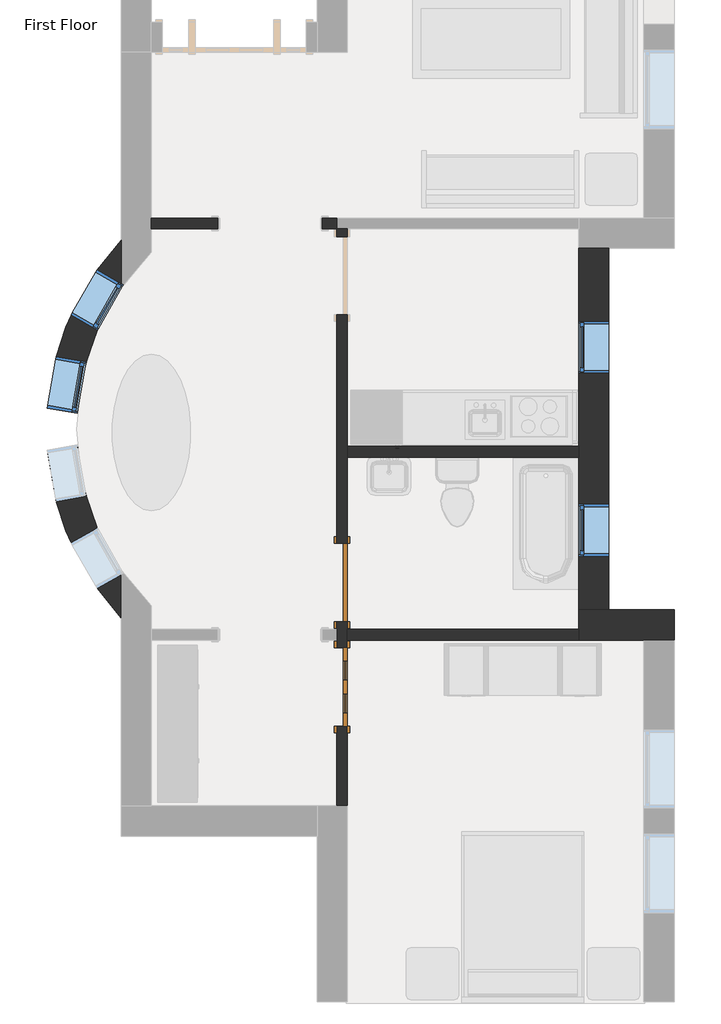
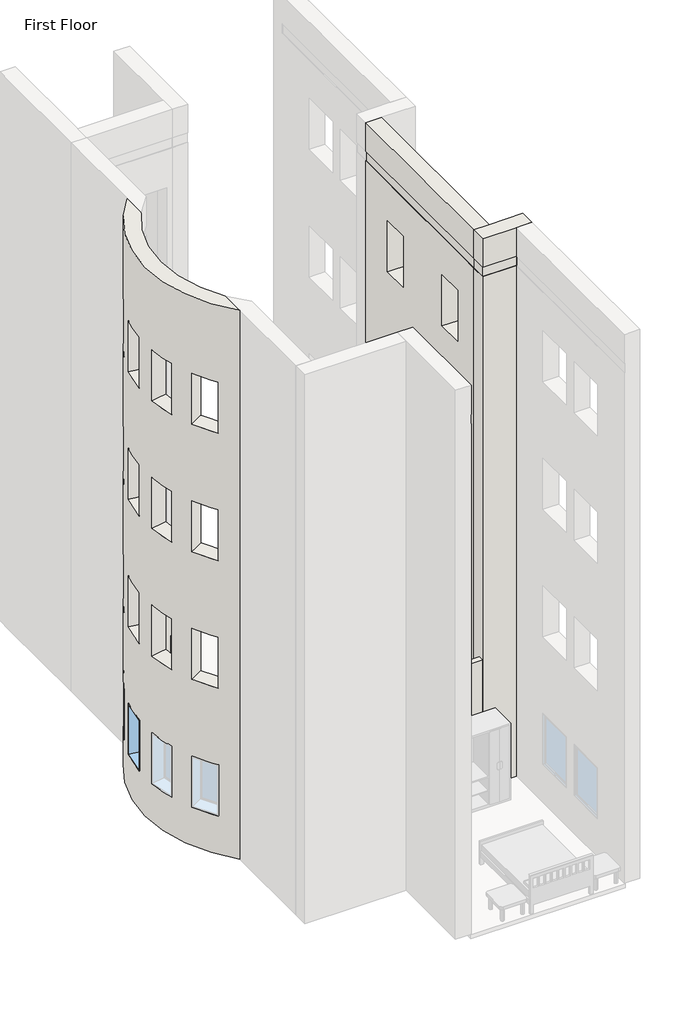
# One storey, part 12 of 24: 7 walls, 4 windows, 2 doors.
"""IFC4 building model written with IfcOpenShell, lengths in millimetres."""

from ifc_helpers import new_model, si_unit, frame, origin, origin_with_axes, place, context, project, spatial, polyline, circle_curve, outline, extrude, faceted_brep, transform, mapped, element, save
from ifc_brep_helpers import plane_surface, cylinder_surface, revolved_surface, advanced_brep
from components import door_829da954, door_a1797ceb, window_60baf983, window_ed80354a

model = new_model("IFC4")

# Units and contexts
model_context = context("Model", 3, world=origin())
ifc_project = project(units=[si_unit("LENGTHUNIT", "METRE", prefix="MILLI")], contexts=[model_context])

# Site, building, storey
site = spatial("IfcSite", under=ifc_project)
building = spatial("IfcBuilding", under=site)
storey = spatial("IfcBuildingStorey", under=building, Name="First Floor", Elevation=0.0)

# Doors
placement = place(None, origin())
door_shape = door_829da954(model_context)
element("IfcDoor", 1, ObjectType="Single-Decorative 2 : 36\" x 84\"", at=placement, inside=storey, context=model_context, shape_type="MappedRepresentation", body=[
    mapped(door_shape, transform((-3773.4589563, -7954.4808133, 0.0), x_axis=(0.0, 1.0, 0.0), y_axis=(-1.0, 0.0, 0.0), z_axis=(0.0, 0.0, 1.0))),
])
door_2_shape = door_a1797ceb(model_context)
element("IfcDoor", 2, ObjectType="Single-Flush : 36\" x 84\"", at=placement, inside=storey, context=model_context, shape_type="MappedRepresentation", body=[
    mapped(door_2_shape, transform((-3773.4589563, -6735.2808133, 0.0), x_axis=(0.0, -1.0, 0.0), y_axis=(1.0, 0.0, 0.0), z_axis=(0.0, 0.0, 1.0))),
])

# Walls
element("IfcWall", 3, ObjectType="Exterior - Brick on Mtl. Stud", at=placement, inside=storey, context=model_context, shape_type="Brep", body=[
    faceted_brep([(100.0410437, -7055.9558133, 0.0), (-661.9589563, -7055.9558133, 0.0), (-1014.3839563, -7055.9558133, 0.0), (-1014.3839563, -7055.9558133, 12192.0), (-1001.6839563, -7055.9558133, 12192.0), (-1001.6839563, -7055.9558133, 12420.6), (-1014.3839563, -7055.9558133, 12420.6), (-1014.3839563, -7055.9558133, 13106.4), (-661.9589563, -7055.9558133, 13106.4), (100.0410437, -7055.9558133, 13106.4), (-1014.3839563, -7408.3808133, 0.0), (-252.3839563, -7408.3808133, 0.0), (100.0410437, -7408.3808133, 0.0), (100.0410437, -7408.3808133, 13106.4), (-252.3839563, -7408.3808133, 13106.4), (-1014.3839563, -7408.3808133, 13106.4), (-1014.3839563, -7408.3808133, 12420.6), (-252.3839563, -7408.3808133, 12420.6), (-239.6839563, -7408.3808133, 12420.6), (-239.6839563, -7408.3808133, 12192.0), (-252.3839563, -7408.3808133, 12192.0), (-1014.3839563, -7408.3808133, 12192.0), (-1014.3839563, -7408.3808133, 3048.0), (-1014.3839563, -7281.3808133, 0.0), (-239.6839563, -7395.6808133, 12192.0), (-1001.6839563, -7395.6808133, 12192.0), (-1001.6839563, -7395.6808133, 12420.6), (-239.6839563, -7395.6808133, 12420.6)], [[[0, 1, 2, 3, 4, 5, 6, 7, 8, 9]], [[10, 11, 12, 13, 14, 15, 16, 17, 18, 19, 20, 21, 22]], [[2, 1, 0, 12, 11, 10, 23]], [[9, 8, 7, 15, 14, 13]], [[0, 9, 13, 12]], [[2, 23, 10, 22, 21, 3]], [[15, 7, 6, 16]], [[24, 25, 4, 3, 21, 20, 19]], [[26, 27, 18, 17, 16, 6, 5]], [[27, 24, 19, 18]], [[25, 24, 27, 26]], [[25, 26, 5, 4]]]),
])
element("IfcWall", 4, ObjectType="Exterior - Brick on Mtl. Stud", at=placement, inside=storey, context=model_context, shape_type="Brep", body=[
    faceted_brep([(-661.9589563, -7055.9558133, 0.0), (-661.9589563, -2836.3808133, 0.0), (-661.9589563, -2836.3808133, 13106.4), (-661.9589563, -7055.9558133, 13106.4), (-661.9589563, -6430.4808133, 7010.4), (-661.9589563, -6430.4808133, 8229.6), (-661.9589563, -5820.8808133, 8229.6), (-661.9589563, -5820.8808133, 7010.4), (-661.9589563, -4296.8808133, 7010.4), (-661.9589563, -4296.8808133, 8229.6), (-661.9589563, -3687.2808133, 8229.6), (-661.9589563, -3687.2808133, 7010.4), (-661.9589563, -6430.4808133, 3962.4), (-661.9589563, -6430.4808133, 5181.6), (-661.9589563, -5820.8808133, 5181.6), (-661.9589563, -5820.8808133, 3962.4), (-661.9589563, -4296.8808133, 3962.4), (-661.9589563, -4296.8808133, 5181.6), (-661.9589563, -3687.2808133, 5181.6), (-661.9589563, -3687.2808133, 3962.4), (-661.9589563, -6430.4808133, 10058.4), (-661.9589563, -6430.4808133, 11277.6), (-661.9589563, -5820.8808133, 11277.6), (-661.9589563, -5820.8808133, 10058.4), (-661.9589563, -4296.8808133, 10058.4), (-661.9589563, -4296.8808133, 11277.6), (-661.9589563, -3687.2808133, 11277.6), (-661.9589563, -3687.2808133, 10058.4), (-661.9589563, -6430.4808133, 914.4), (-661.9589563, -6430.4808133, 2133.6), (-661.9589563, -5820.8808133, 2133.6), (-661.9589563, -5820.8808133, 914.4), (-661.9589563, -4296.8808133, 914.4), (-661.9589563, -4296.8808133, 2133.6), (-661.9589563, -3687.2808133, 2133.6), (-661.9589563, -3687.2808133, 914.4), (-1014.3839563, -2836.3808133, 0.0), (-1014.3839563, -5147.7808133, 0.0), (-1014.3839563, -5274.7808133, 0.0), (-1014.3839563, -7055.9558133, 0.0), (-1014.3839563, -7055.9558133, 12192.0), (-1014.3839563, -5274.7808133, 12192.0), (-1014.3839563, -5147.7808133, 12192.0), (-1014.3839563, -2836.3808133, 12192.0), (-1014.3839563, -6430.4808133, 8229.6), (-1014.3839563, -6430.4808133, 7010.4), (-1014.3839563, -5820.8808133, 7010.4), (-1014.3839563, -5820.8808133, 8229.6), (-1014.3839563, -4296.8808133, 8229.6), (-1014.3839563, -4296.8808133, 7010.4), (-1014.3839563, -3687.2808133, 7010.4), (-1014.3839563, -3687.2808133, 8229.6), (-1014.3839563, -6430.4808133, 5181.6), (-1014.3839563, -6430.4808133, 3962.4), (-1014.3839563, -5820.8808133, 3962.4), (-1014.3839563, -5820.8808133, 5181.6), (-1014.3839563, -4296.8808133, 5181.6), (-1014.3839563, -4296.8808133, 3962.4), (-1014.3839563, -3687.2808133, 3962.4), (-1014.3839563, -3687.2808133, 5181.6), (-1014.3839563, -6430.4808133, 11277.6), (-1014.3839563, -6430.4808133, 10058.4), (-1014.3839563, -5820.8808133, 10058.4), (-1014.3839563, -5820.8808133, 11277.6), (-1014.3839563, -4296.8808133, 11277.6), (-1014.3839563, -4296.8808133, 10058.4), (-1014.3839563, -3687.2808133, 10058.4), (-1014.3839563, -3687.2808133, 11277.6), (-1014.3839563, -6430.4808133, 2133.6), (-1014.3839563, -6430.4808133, 914.4), (-1014.3839563, -5820.8808133, 914.4), (-1014.3839563, -5820.8808133, 2133.6), (-1014.3839563, -4296.8808133, 2133.6), (-1014.3839563, -4296.8808133, 914.4), (-1014.3839563, -3687.2808133, 914.4), (-1014.3839563, -3687.2808133, 2133.6), (-1014.3839563, -7055.9558133, 13106.4), (-1014.3839563, -2836.3808133, 13106.4), (-1014.3839563, -2836.3808133, 12420.6), (-1014.3839563, -7055.9558133, 12420.6), (-1001.6839563, -7055.9558133, 12420.6), (-1001.6839563, -7055.9558133, 12192.0), (-1001.6839563, -2836.3808133, 12192.0), (-1001.6839563, -2836.3808133, 12420.6)], [[[0, 1, 2, 3], [4, 5, 6, 7], [8, 9, 10, 11], [12, 13, 14, 15], [16, 17, 18, 19], [20, 21, 22, 23], [24, 25, 26, 27], [28, 29, 30, 31], [32, 33, 34, 35]], [[36, 37, 38, 39, 40, 41, 42, 43], [44, 45, 46, 47], [48, 49, 50, 51], [52, 53, 54, 55], [56, 57, 58, 59], [60, 61, 62, 63], [64, 65, 66, 67], [68, 69, 70, 71], [72, 73, 74, 75]], [[76, 77, 78, 79]], [[1, 0, 39, 38, 37, 36]], [[3, 2, 77, 76]], [[0, 3, 76, 79, 80, 81, 40, 39]], [[2, 1, 36, 43, 82, 83, 78, 77]], [[45, 44, 5, 4]], [[46, 45, 4, 7]], [[47, 46, 7, 6]], [[44, 47, 6, 5]], [[49, 48, 9, 8]], [[50, 49, 8, 11]], [[51, 50, 11, 10]], [[48, 51, 10, 9]], [[53, 52, 13, 12]], [[54, 53, 12, 15]], [[55, 54, 15, 14]], [[52, 55, 14, 13]], [[57, 56, 17, 16]], [[58, 57, 16, 19]], [[59, 58, 19, 18]], [[56, 59, 18, 17]], [[61, 60, 21, 20]], [[62, 61, 20, 23]], [[63, 62, 23, 22]], [[60, 63, 22, 21]], [[65, 64, 25, 24]], [[66, 65, 24, 27]], [[67, 66, 27, 26]], [[64, 67, 26, 25]], [[69, 68, 29, 28]], [[70, 69, 28, 31]], [[71, 70, 31, 30]], [[68, 71, 30, 29]], [[73, 72, 33, 32]], [[74, 73, 32, 35]], [[75, 74, 35, 34]], [[72, 75, 34, 33]], [[81, 82, 43, 42, 41, 40]], [[83, 80, 79, 78]], [[82, 81, 80, 83]]]),
])
element("IfcWall", 5, ObjectType="Exterior - Brick on Mtl. Stud", at=placement, inside=storey, context=model_context, shape_type="AdvancedBrep", body=[
    advanced_brep(
    [(-6348.3839563, -2741.7830793, 13106.4), (-6348.3839563, -7150.5535473, 13106.4), (-6348.3839563, -6592.6589631, 13106.4), (-6348.3839563, -3299.6776635, 13106.4), (-6348.3839563, -7150.5535473, 0.0), (-6348.3839563, -2741.7830793, 0.0), (-6348.3839563, -3299.6776635, 0.0), (-6348.3839563, -6592.6589631, 0.0), (-6933.4709271, -6274.1976656, 914.4), (-6933.4709271, -6274.1976656, 2133.6), (-6630.9928429, -6803.4605195, 2133.6), (-6630.9928429, -6803.4605195, 914.4), (-6933.4709271, -3618.1389611, 2133.6), (-6933.4709271, -3618.1389611, 914.4), (-6630.9928429, -3088.8761071, 914.4), (-6630.9928429, -3088.8761071, 2133.6), (-6933.4709271, -6274.1976656, 10058.4), (-6933.4709271, -6274.1976656, 11277.6), (-6630.9928429, -6803.4605195, 11277.6), (-6630.9928429, -6803.4605195, 10058.4), (-6933.4709271, -3618.1389611, 11277.6), (-6933.4709271, -3618.1389611, 10058.4), (-6630.9928429, -3088.8761071, 10058.4), (-6630.9928429, -3088.8761071, 11277.6), (-6933.4709271, -6274.1976656, 3962.4), (-6933.4709271, -6274.1976656, 5181.6), (-6630.9928429, -6803.4605195, 5181.6), (-6630.9928429, -6803.4605195, 3962.4), (-6933.4709271, -3618.1389611, 5181.6), (-6933.4709271, -3618.1389611, 3962.4), (-6630.9928429, -3088.8761071, 3962.4), (-6630.9928429, -3088.8761071, 5181.6), (-6933.4709271, -6274.1976656, 7010.4), (-6933.4709271, -6274.1976656, 8229.6), (-6630.9928429, -6803.4605195, 8229.6), (-6630.9928429, -6803.4605195, 7010.4), (-6933.4709271, -3618.1389611, 8229.6), (-6933.4709271, -3618.1389611, 7010.4), (-6630.9928429, -3088.8761071, 7010.4), (-6630.9928429, -3088.8761071, 8229.6), (-7210.3984091, -4701.7435836, 8229.6), (-7210.3984091, -4701.7435836, 7010.4), (-7106.9296032, -4100.9887532, 7010.4), (-7106.9296032, -4100.9887532, 8229.6), (-7210.3984091, -5190.5930431, 7010.4), (-7210.3984091, -5190.5930431, 8229.6), (-7106.9296032, -5791.3478734, 8229.6), (-7106.9296032, -5791.3478734, 7010.4), (-7210.3984091, -4701.7435836, 5181.6), (-7210.3984091, -4701.7435836, 3962.4), (-7106.9296032, -4100.9887532, 3962.4), (-7106.9296032, -4100.9887532, 5181.6), (-7210.3984091, -5190.5930431, 3962.4), (-7210.3984091, -5190.5930431, 5181.6), (-7106.9296032, -5791.3478734, 5181.6), (-7106.9296032, -5791.3478734, 3962.4), (-7210.3984091, -4701.7435836, 11277.6), (-7210.3984091, -4701.7435836, 10058.4), (-7106.9296032, -4100.9887532, 10058.4), (-7106.9296032, -4100.9887532, 11277.6), (-7210.3984091, -5190.5930431, 10058.4), (-7210.3984091, -5190.5930431, 11277.6), (-7106.9296032, -5791.3478734, 11277.6), (-7106.9296032, -5791.3478734, 10058.4), (-7210.3984091, -4701.7435836, 2133.6), (-7210.3984091, -4701.7435836, 914.4), (-7106.9296032, -4100.9887532, 914.4), (-7106.9296032, -4100.9887532, 2133.6), (-7210.3984091, -5190.5930431, 914.4), (-7210.3984091, -5190.5930431, 2133.6), (-7106.9296032, -5791.3478734, 2133.6), (-7106.9296032, -5791.3478734, 914.4), (-6348.3839563, -6592.6589631, 12420.6), (-6348.3839563, -3299.6776635, 12420.6), (-6348.3839563, -3299.6776635, 914.4), (-6625.944107, -3793.893074, 914.4), (-6625.944107, -3793.893074, 2133.6), (-6348.3839563, -3299.6776635, 2133.6), (-6348.3839563, -3299.6776635, 3962.4), (-6625.944107, -3793.893074, 3962.4), (-6625.944107, -3793.893074, 5181.6), (-6348.3839563, -3299.6776635, 5181.6), (-6348.3839563, -3299.6776635, 7010.4), (-6625.944107, -3793.893074, 7010.4), (-6625.944107, -3793.893074, 8229.6), (-6348.3839563, -3299.6776635, 8229.6), (-6348.3839563, -3299.6776635, 10058.4), (-6625.944107, -3793.893074, 10058.4), (-6625.944107, -3793.893074, 11277.6), (-6348.3839563, -3299.6776635, 11277.6), (-6348.3839563, -3299.6776635, 12192.0), (-6348.3839563, -6592.6589631, 12192.0), (-6348.3839563, -6592.6589631, 11277.6), (-6625.944107, -6098.4435526, 11277.6), (-6625.944107, -6098.4435526, 10058.4), (-6348.3839563, -6592.6589631, 10058.4), (-6348.3839563, -6592.6589631, 8229.6), (-6625.944107, -6098.4435526, 8229.6), (-6625.944107, -6098.4435526, 7010.4), (-6348.3839563, -6592.6589631, 7010.4), (-6348.3839563, -6592.6589631, 5181.6), (-6625.944107, -6098.4435526, 5181.6), (-6625.944107, -6098.4435526, 3962.4), (-6348.3839563, -6592.6589631, 3962.4), (-6348.3839563, -6592.6589631, 2133.6), (-6625.944107, -6098.4435526, 2133.6), (-6625.944107, -6098.4435526, 914.4), (-6348.3839563, -6592.6589631, 914.4), (-6861.33136, -4761.8638671, 7010.4), (-6861.33136, -4761.8638671, 8229.6), (-6757.862554, -4161.1090368, 8229.6), (-6757.862554, -4161.1090368, 7010.4), (-6861.33136, -5130.4727595, 8229.6), (-6861.33136, -5130.4727595, 7010.4), (-6757.862554, -5731.2275899, 7010.4), (-6757.862554, -5731.2275899, 8229.6), (-6861.33136, -4761.8638671, 3962.4), (-6861.33136, -4761.8638671, 5181.6), (-6757.862554, -4161.1090368, 5181.6), (-6757.862554, -4161.1090368, 3962.4), (-6861.33136, -5130.4727595, 5181.6), (-6861.33136, -5130.4727595, 3962.4), (-6757.862554, -5731.2275899, 3962.4), (-6757.862554, -5731.2275899, 5181.6), (-6861.33136, -4761.8638671, 10058.4), (-6861.33136, -4761.8638671, 11277.6), (-6757.862554, -4161.1090368, 11277.6), (-6757.862554, -4161.1090368, 10058.4), (-6861.33136, -5130.4727595, 11277.6), (-6861.33136, -5130.4727595, 10058.4), (-6757.862554, -5731.2275899, 10058.4), (-6757.862554, -5731.2275899, 11277.6), (-6861.33136, -4761.8638671, 914.4), (-6861.33136, -4761.8638671, 2133.6), (-6757.862554, -4161.1090368, 2133.6), (-6757.862554, -4161.1090368, 914.4), (-6861.33136, -5130.4727595, 2133.6), (-6861.33136, -5130.4727595, 914.4), (-6757.862554, -5731.2275899, 914.4), (-6757.862554, -5731.2275899, 2133.6), (-6348.3839563, -2991.1907425, 12420.6), (-6348.3839563, -2991.1907425, 12192.0), (-6348.3839563, -3250.3894156, 11277.6), (-6348.3839563, -3250.3894156, 10058.4), (-6348.3839563, -3250.3894156, 8229.6), (-6348.3839563, -3250.3894156, 7010.4), (-6348.3839563, -3250.3894156, 5181.6), (-6348.3839563, -3250.3894156, 3962.4), (-6348.3839563, -3250.3894156, 2133.6), (-6348.3839563, -3250.3894156, 914.4), (-6348.3839563, -6641.947211, 914.4), (-6348.3839563, -6641.947211, 2133.6), (-6348.3839563, -6641.947211, 3962.4), (-6348.3839563, -6641.947211, 5181.6), (-6348.3839563, -6641.947211, 7010.4), (-6348.3839563, -6641.947211, 8229.6), (-6348.3839563, -6641.947211, 10058.4), (-6348.3839563, -6641.947211, 11277.6), (-6348.3839563, -6901.1458841, 12192.0), (-6348.3839563, -6901.1458841, 12420.6)],
    [
        (0, 1, circle_curve(frame((-3995.4640713, -4946.1683133, 13106.4), z_axis=(0.0, 0.0, 1.0), x_axis=(0.0, 1.0, 0.0)), 3224.2125)),
        (1, 2),
        (2, 3, circle_curve(frame((-3995.4640713, -4946.1683133, 13106.4), z_axis=(0.0, 0.0, -1.0), x_axis=(0.0, 1.0, 0.0)), 2871.7875)),
        (3, 0),
        (4, 5, circle_curve(frame((-3995.4640713, -4946.1683133, 0.0), z_axis=(0.0, 0.0, -1.0), x_axis=(0.0, 1.0, 0.0)), 3224.2125)),
        (5, 6),
        (6, 7, circle_curve(frame((-3995.4640713, -4946.1683133, 0.0), z_axis=(0.0, 0.0, 1.0), x_axis=(0.0, 1.0, 0.0)), 2871.7875)),
        (7, 4),
        (0, 5),
        (4, 1),
        (8, 9),
        (9, 10, circle_curve(frame((-3995.4640713, -4946.1683133, 2133.6), z_axis=(0.0, 0.0, 1.0), x_axis=(0.0, 1.0, 0.0)), 3224.2125)),
        (10, 11),
        (11, 8, circle_curve(frame((-3995.4640713, -4946.1683133, 914.4), z_axis=(0.0, 0.0, -1.0), x_axis=(0.0, 1.0, 0.0)), 3224.2125)),
        (12, 13),
        (13, 14, circle_curve(frame((-3995.4640713, -4946.1683133, 914.4), z_axis=(0.0, 0.0, -1.0), x_axis=(0.0, 1.0, 0.0)), 3224.2125)),
        (14, 15),
        (15, 12, circle_curve(frame((-3995.4640713, -4946.1683133, 2133.6), z_axis=(0.0, 0.0, 1.0), x_axis=(0.0, 1.0, 0.0)), 3224.2125)),
        (16, 17),
        (17, 18, circle_curve(frame((-3995.4640713, -4946.1683133, 11277.6), z_axis=(0.0, 0.0, 1.0), x_axis=(0.0, 1.0, 0.0)), 3224.2125)),
        (18, 19),
        (19, 16, circle_curve(frame((-3995.4640713, -4946.1683133, 10058.4), z_axis=(0.0, 0.0, -1.0), x_axis=(0.0, 1.0, 0.0)), 3224.2125)),
        (20, 21),
        (21, 22, circle_curve(frame((-3995.4640713, -4946.1683133, 10058.4), z_axis=(0.0, 0.0, -1.0), x_axis=(0.0, 1.0, 0.0)), 3224.2125)),
        (22, 23),
        (23, 20, circle_curve(frame((-3995.4640713, -4946.1683133, 11277.6), z_axis=(0.0, 0.0, 1.0), x_axis=(0.0, 1.0, 0.0)), 3224.2125)),
        (24, 25),
        (25, 26, circle_curve(frame((-3995.4640713, -4946.1683133, 5181.6), z_axis=(0.0, 0.0, 1.0), x_axis=(0.0, 1.0, 0.0)), 3224.2125)),
        (26, 27),
        (27, 24, circle_curve(frame((-3995.4640713, -4946.1683133, 3962.4), z_axis=(0.0, 0.0, -1.0), x_axis=(0.0, 1.0, 0.0)), 3224.2125)),
        (28, 29),
        (29, 30, circle_curve(frame((-3995.4640713, -4946.1683133, 3962.4), z_axis=(0.0, 0.0, -1.0), x_axis=(0.0, 1.0, 0.0)), 3224.2125)),
        (30, 31),
        (31, 28, circle_curve(frame((-3995.4640713, -4946.1683133, 5181.6), z_axis=(0.0, 0.0, 1.0), x_axis=(0.0, 1.0, 0.0)), 3224.2125)),
        (32, 33),
        (33, 34, circle_curve(frame((-3995.4640713, -4946.1683133, 8229.6), z_axis=(0.0, 0.0, 1.0), x_axis=(0.0, 1.0, 0.0)), 3224.2125)),
        (34, 35),
        (35, 32, circle_curve(frame((-3995.4640713, -4946.1683133, 7010.4), z_axis=(0.0, 0.0, -1.0), x_axis=(0.0, 1.0, 0.0)), 3224.2125)),
        (36, 37),
        (37, 38, circle_curve(frame((-3995.4640713, -4946.1683133, 7010.4), z_axis=(0.0, 0.0, -1.0), x_axis=(0.0, 1.0, 0.0)), 3224.2125)),
        (38, 39),
        (39, 36, circle_curve(frame((-3995.4640713, -4946.1683133, 8229.6), z_axis=(0.0, 0.0, 1.0), x_axis=(0.0, 1.0, 0.0)), 3224.2125)),
        (40, 41),
        (41, 42, circle_curve(frame((-3995.4640713, -4946.1683133, 7010.4), z_axis=(0.0, 0.0, -1.0), x_axis=(0.0, 1.0, 0.0)), 3224.2125)),
        (42, 43),
        (43, 40, circle_curve(frame((-3995.4640713, -4946.1683133, 8229.6), z_axis=(0.0, 0.0, 1.0), x_axis=(0.0, 1.0, 0.0)), 3224.2125)),
        (44, 45),
        (45, 46, circle_curve(frame((-3995.4640713, -4946.1683133, 8229.6), z_axis=(0.0, 0.0, 1.0), x_axis=(0.0, 1.0, 0.0)), 3224.2125)),
        (46, 47),
        (47, 44, circle_curve(frame((-3995.4640713, -4946.1683133, 7010.4), z_axis=(0.0, 0.0, -1.0), x_axis=(0.0, 1.0, 0.0)), 3224.2125)),
        (48, 49),
        (49, 50, circle_curve(frame((-3995.4640713, -4946.1683133, 3962.4), z_axis=(0.0, 0.0, -1.0), x_axis=(0.0, 1.0, 0.0)), 3224.2125)),
        (50, 51),
        (51, 48, circle_curve(frame((-3995.4640713, -4946.1683133, 5181.6), z_axis=(0.0, 0.0, 1.0), x_axis=(0.0, 1.0, 0.0)), 3224.2125)),
        (52, 53),
        (53, 54, circle_curve(frame((-3995.4640713, -4946.1683133, 5181.6), z_axis=(0.0, 0.0, 1.0), x_axis=(0.0, 1.0, 0.0)), 3224.2125)),
        (54, 55),
        (55, 52, circle_curve(frame((-3995.4640713, -4946.1683133, 3962.4), z_axis=(0.0, 0.0, -1.0), x_axis=(0.0, 1.0, 0.0)), 3224.2125)),
        (56, 57),
        (57, 58, circle_curve(frame((-3995.4640713, -4946.1683133, 10058.4), z_axis=(0.0, 0.0, -1.0), x_axis=(0.0, 1.0, 0.0)), 3224.2125)),
        (58, 59),
        (59, 56, circle_curve(frame((-3995.4640713, -4946.1683133, 11277.6), z_axis=(0.0, 0.0, 1.0), x_axis=(0.0, 1.0, 0.0)), 3224.2125)),
        (60, 61),
        (61, 62, circle_curve(frame((-3995.4640713, -4946.1683133, 11277.6), z_axis=(0.0, 0.0, 1.0), x_axis=(0.0, 1.0, 0.0)), 3224.2125)),
        (62, 63),
        (63, 60, circle_curve(frame((-3995.4640713, -4946.1683133, 10058.4), z_axis=(0.0, 0.0, -1.0), x_axis=(0.0, 1.0, 0.0)), 3224.2125)),
        (64, 65),
        (65, 66, circle_curve(frame((-3995.4640713, -4946.1683133, 914.4), z_axis=(0.0, 0.0, -1.0), x_axis=(0.0, 1.0, 0.0)), 3224.2125)),
        (66, 67),
        (67, 64, circle_curve(frame((-3995.4640713, -4946.1683133, 2133.6), z_axis=(0.0, 0.0, 1.0), x_axis=(0.0, 1.0, 0.0)), 3224.2125)),
        (68, 69),
        (69, 70, circle_curve(frame((-3995.4640713, -4946.1683133, 2133.6), z_axis=(0.0, 0.0, 1.0), x_axis=(0.0, 1.0, 0.0)), 3224.2125)),
        (70, 71),
        (71, 68, circle_curve(frame((-3995.4640713, -4946.1683133, 914.4), z_axis=(0.0, 0.0, -1.0), x_axis=(0.0, 1.0, 0.0)), 3224.2125)),
        (2, 72),
        (72, 73, circle_curve(frame((-3995.4640713, -4946.1683133, 12420.6), z_axis=(0.0, 0.0, -1.0), x_axis=(0.0, 1.0, 0.0)), 2871.7875)),
        (73, 3),
        (6, 74),
        (74, 75, circle_curve(frame((-3995.4640713, -4946.1683133, 914.4), z_axis=(0.0, 0.0, 1.0), x_axis=(0.0, 1.0, 0.0)), 2871.7875)),
        (75, 76),
        (76, 77, circle_curve(frame((-3995.4640713, -4946.1683133, 2133.6), z_axis=(0.0, 0.0, -1.0), x_axis=(0.0, 1.0, 0.0)), 2871.7875)),
        (77, 78),
        (78, 79, circle_curve(frame((-3995.4640713, -4946.1683133, 3962.4), z_axis=(0.0, 0.0, 1.0), x_axis=(0.0, 1.0, 0.0)), 2871.7875)),
        (79, 80),
        (80, 81, circle_curve(frame((-3995.4640713, -4946.1683133, 5181.6), z_axis=(0.0, 0.0, -1.0), x_axis=(0.0, 1.0, 0.0)), 2871.7875)),
        (81, 82),
        (82, 83, circle_curve(frame((-3995.4640713, -4946.1683133, 7010.4), z_axis=(0.0, 0.0, 1.0), x_axis=(0.0, 1.0, 0.0)), 2871.7875)),
        (83, 84),
        (84, 85, circle_curve(frame((-3995.4640713, -4946.1683133, 8229.6), z_axis=(0.0, 0.0, -1.0), x_axis=(0.0, 1.0, 0.0)), 2871.7875)),
        (85, 86),
        (86, 87, circle_curve(frame((-3995.4640713, -4946.1683133, 10058.4), z_axis=(0.0, 0.0, 1.0), x_axis=(0.0, 1.0, 0.0)), 2871.7875)),
        (87, 88),
        (88, 89, circle_curve(frame((-3995.4640713, -4946.1683133, 11277.6), z_axis=(0.0, 0.0, -1.0), x_axis=(0.0, 1.0, 0.0)), 2871.7875)),
        (89, 90),
        (90, 91, circle_curve(frame((-3995.4640713, -4946.1683133, 12192.0), z_axis=(0.0, 0.0, 1.0), x_axis=(0.0, 1.0, 0.0)), 2871.7875)),
        (91, 92),
        (92, 93, circle_curve(frame((-3995.4640713, -4946.1683133, 11277.6), z_axis=(0.0, 0.0, -1.0), x_axis=(0.0, 1.0, 0.0)), 2871.7875)),
        (93, 94),
        (94, 95, circle_curve(frame((-3995.4640713, -4946.1683133, 10058.4), z_axis=(0.0, 0.0, 1.0), x_axis=(0.0, 1.0, 0.0)), 2871.7875)),
        (95, 96),
        (96, 97, circle_curve(frame((-3995.4640713, -4946.1683133, 8229.6), z_axis=(0.0, 0.0, -1.0), x_axis=(0.0, 1.0, 0.0)), 2871.7875)),
        (97, 98),
        (98, 99, circle_curve(frame((-3995.4640713, -4946.1683133, 7010.4), z_axis=(0.0, 0.0, 1.0), x_axis=(0.0, 1.0, 0.0)), 2871.7875)),
        (99, 100),
        (100, 101, circle_curve(frame((-3995.4640713, -4946.1683133, 5181.6), z_axis=(0.0, 0.0, -1.0), x_axis=(0.0, 1.0, 0.0)), 2871.7875)),
        (101, 102),
        (102, 103, circle_curve(frame((-3995.4640713, -4946.1683133, 3962.4), z_axis=(0.0, 0.0, 1.0), x_axis=(0.0, 1.0, 0.0)), 2871.7875)),
        (103, 104),
        (104, 105, circle_curve(frame((-3995.4640713, -4946.1683133, 2133.6), z_axis=(0.0, 0.0, -1.0), x_axis=(0.0, 1.0, 0.0)), 2871.7875)),
        (105, 106),
        (106, 107, circle_curve(frame((-3995.4640713, -4946.1683133, 914.4), z_axis=(0.0, 0.0, 1.0), x_axis=(0.0, 1.0, 0.0)), 2871.7875)),
        (107, 7),
        (108, 109),
        (109, 110, circle_curve(frame((-3995.4640713, -4946.1683133, 8229.6), z_axis=(0.0, 0.0, -1.0), x_axis=(0.0, 1.0, 0.0)), 2871.7875)),
        (110, 111),
        (111, 108, circle_curve(frame((-3995.4640713, -4946.1683133, 7010.4), z_axis=(0.0, 0.0, 1.0), x_axis=(0.0, 1.0, 0.0)), 2871.7875)),
        (112, 113),
        (113, 114, circle_curve(frame((-3995.4640713, -4946.1683133, 7010.4), z_axis=(0.0, 0.0, 1.0), x_axis=(0.0, 1.0, 0.0)), 2871.7875)),
        (114, 115),
        (115, 112, circle_curve(frame((-3995.4640713, -4946.1683133, 8229.6), z_axis=(0.0, 0.0, -1.0), x_axis=(0.0, 1.0, 0.0)), 2871.7875)),
        (116, 117),
        (117, 118, circle_curve(frame((-3995.4640713, -4946.1683133, 5181.6), z_axis=(0.0, 0.0, -1.0), x_axis=(0.0, 1.0, 0.0)), 2871.7875)),
        (118, 119),
        (119, 116, circle_curve(frame((-3995.4640713, -4946.1683133, 3962.4), z_axis=(0.0, 0.0, 1.0), x_axis=(0.0, 1.0, 0.0)), 2871.7875)),
        (120, 121),
        (121, 122, circle_curve(frame((-3995.4640713, -4946.1683133, 3962.4), z_axis=(0.0, 0.0, 1.0), x_axis=(0.0, 1.0, 0.0)), 2871.7875)),
        (122, 123),
        (123, 120, circle_curve(frame((-3995.4640713, -4946.1683133, 5181.6), z_axis=(0.0, 0.0, -1.0), x_axis=(0.0, 1.0, 0.0)), 2871.7875)),
        (124, 125),
        (125, 126, circle_curve(frame((-3995.4640713, -4946.1683133, 11277.6), z_axis=(0.0, 0.0, -1.0), x_axis=(0.0, 1.0, 0.0)), 2871.7875)),
        (126, 127),
        (127, 124, circle_curve(frame((-3995.4640713, -4946.1683133, 10058.4), z_axis=(0.0, 0.0, 1.0), x_axis=(0.0, 1.0, 0.0)), 2871.7875)),
        (128, 129),
        (129, 130, circle_curve(frame((-3995.4640713, -4946.1683133, 10058.4), z_axis=(0.0, 0.0, 1.0), x_axis=(0.0, 1.0, 0.0)), 2871.7875)),
        (130, 131),
        (131, 128, circle_curve(frame((-3995.4640713, -4946.1683133, 11277.6), z_axis=(0.0, 0.0, -1.0), x_axis=(0.0, 1.0, 0.0)), 2871.7875)),
        (132, 133),
        (133, 134, circle_curve(frame((-3995.4640713, -4946.1683133, 2133.6), z_axis=(0.0, 0.0, -1.0), x_axis=(0.0, 1.0, 0.0)), 2871.7875)),
        (134, 135),
        (135, 132, circle_curve(frame((-3995.4640713, -4946.1683133, 914.4), z_axis=(0.0, 0.0, 1.0), x_axis=(0.0, 1.0, 0.0)), 2871.7875)),
        (136, 137),
        (137, 138, circle_curve(frame((-3995.4640713, -4946.1683133, 914.4), z_axis=(0.0, 0.0, 1.0), x_axis=(0.0, 1.0, 0.0)), 2871.7875)),
        (138, 139),
        (139, 136, circle_curve(frame((-3995.4640713, -4946.1683133, 2133.6), z_axis=(0.0, 0.0, -1.0), x_axis=(0.0, 1.0, 0.0)), 2871.7875)),
        (73, 140),
        (140, 141),
        (141, 90),
        (89, 142),
        (142, 143),
        (143, 86),
        (85, 144),
        (144, 145),
        (145, 82),
        (81, 146),
        (146, 147),
        (147, 78),
        (77, 148),
        (148, 149),
        (149, 74),
        (107, 150),
        (150, 151),
        (151, 104),
        (103, 152),
        (152, 153),
        (153, 100),
        (99, 154),
        (154, 155),
        (155, 96),
        (95, 156),
        (156, 157),
        (157, 92),
        (91, 158),
        (158, 159),
        (159, 72),
        (105, 9),
        (8, 106),
        (11, 150),
        (10, 151),
        (12, 76),
        (75, 13),
        (149, 14),
        (148, 15),
        (93, 17),
        (16, 94),
        (19, 156),
        (18, 157),
        (20, 88),
        (87, 21),
        (143, 22),
        (142, 23),
        (101, 25),
        (24, 102),
        (27, 152),
        (26, 153),
        (28, 80),
        (79, 29),
        (147, 30),
        (146, 31),
        (97, 33),
        (32, 98),
        (35, 154),
        (34, 155),
        (36, 84),
        (83, 37),
        (145, 38),
        (144, 39),
        (40, 109),
        (108, 41),
        (111, 42),
        (110, 43),
        (112, 45),
        (44, 113),
        (47, 114),
        (46, 115),
        (48, 117),
        (116, 49),
        (119, 50),
        (118, 51),
        (120, 53),
        (52, 121),
        (55, 122),
        (54, 123),
        (56, 125),
        (124, 57),
        (127, 58),
        (126, 59),
        (128, 61),
        (60, 129),
        (63, 130),
        (62, 131),
        (64, 133),
        (132, 65),
        (135, 66),
        (134, 67),
        (136, 69),
        (68, 137),
        (71, 138),
        (70, 139),
        (141, 158, circle_curve(frame((-3995.4640713, -4946.1683133, 12192.0), z_axis=(0.0, 0.0, 1.0), x_axis=(0.0, -1.0, 0.0)), 3059.1125)),
        (159, 140, circle_curve(frame((-3995.4640713, -4946.1683133, 12420.6), z_axis=(0.0, 0.0, -1.0), x_axis=(0.0, -1.0, 0.0)), 3059.1125)),
    ],
    [
        plane_surface(frame((-3995.4640713, -1721.9558133, 13106.4), z_axis=(0.0, 0.0, 1.0), x_axis=(-1.0, 0.0, 0.0))),
        plane_surface(frame((-3995.4640713, -1721.9558133, 0.0), z_axis=(0.0, 0.0, -1.0), x_axis=(1.0, 0.0, 0.0))),
        cylinder_surface(frame((-3995.4640713, -4946.1683133, 0.0), z_axis=(0.0, 0.0, 1.0), x_axis=(0.0, 1.0, 0.0)), 3224.2125),
        revolved_surface(polyline([(-3995.4640713, -2074.3808132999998, 12420.6), (-3995.4640713, -2074.3808132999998, 13106.4)]), (-3995.4640713, -4946.1683133, 0.0), (0.0, 0.0, -1.0)),
        revolved_surface(polyline([(-3995.4640713, -2074.3808132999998, 0.0), (-3995.4640713, -2074.3808132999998, 12192.0)]), (-3995.4640713, -4946.1683133, 0.0), (0.0, 0.0, -1.0)),
        plane_surface(frame((-6348.3839563, -374.1683133, 0.0), z_axis=(1.0, 0.0, 0.0), x_axis=(0.0, -1.0, 0.0))),
        plane_surface(frame((-6348.3839563, -9518.1683133, 0.0), z_axis=(1.0, 0.0, 0.0), x_axis=(0.0, -1.0, 0.0))),
        plane_surface(frame((-8256.628062, -7030.3928761, 2133.6), z_axis=(0.4961910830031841, -0.8682133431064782, 0.0), x_axis=(0.8682133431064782, 0.4961910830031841, 0.0))),
        plane_surface(frame((-8256.628062, -7030.3928761, 914.4), z_axis=(0.0, 0.0, 1.0), x_axis=(0.8682133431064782, 0.4961910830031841, 0.0))),
        plane_surface(frame((-7954.1499778, -7559.65573, 914.4), z_axis=(-0.4961910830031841, 0.8682133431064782, 0.0), x_axis=(0.8682133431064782, 0.4961910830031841, 0.0))),
        plane_surface(frame((-7954.1499778, -7559.65573, 2133.6), z_axis=(0.0, 0.0, -1.0), x_axis=(0.8682133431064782, 0.4961910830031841, 0.0))),
        plane_surface(frame((-5610.3137922, -4374.3341716, 2133.6), z_axis=(0.49619108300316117, 0.8682133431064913, 0.0), x_axis=(-0.8682133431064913, 0.49619108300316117, 0.0))),
        plane_surface(frame((-5610.3137922, -4374.3341716, 914.4), z_axis=(0.0, 0.0, 1.0), x_axis=(-0.8682133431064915, 0.49619108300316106, 0.0))),
        plane_surface(frame((-5307.835708, -3845.0713176, 914.4), z_axis=(-0.4961910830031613, -0.8682133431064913, 0.0), x_axis=(-0.8682133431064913, 0.4961910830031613, 0.0))),
        plane_surface(frame((-5307.835708, -3845.0713176, 2133.6), z_axis=(0.0, 0.0, -1.0000000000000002), x_axis=(-0.8682133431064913, 0.4961910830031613, 0.0))),
        plane_surface(frame((-8256.628062, -7030.3928761, 11277.6), z_axis=(0.49619108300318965, -0.8682133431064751, 0.0), x_axis=(0.8682133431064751, 0.49619108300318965, 0.0))),
        plane_surface(frame((-8256.628062, -7030.3928761, 10058.4), z_axis=(0.0, 0.0, 1.0000000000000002), x_axis=(0.8682133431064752, 0.49619108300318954, 0.0))),
        plane_surface(frame((-7954.1499778, -7559.65573, 10058.4), z_axis=(-0.49619108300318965, 0.8682133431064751, 0.0), x_axis=(0.8682133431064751, 0.49619108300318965, 0.0))),
        plane_surface(frame((-7954.1499778, -7559.65573, 11277.6), z_axis=(0.0, 0.0, -1.0000000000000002), x_axis=(0.8682133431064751, 0.49619108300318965, 0.0))),
        plane_surface(frame((-5610.3137922, -4374.3341716, 11277.6), z_axis=(0.4961910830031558, 0.8682133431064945, 0.0), x_axis=(-0.8682133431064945, 0.4961910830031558, 0.0))),
        plane_surface(frame((-5610.3137922, -4374.3341716, 10058.4), z_axis=(0.0, 0.0, 1.0000000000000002), x_axis=(-0.8682133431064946, 0.4961910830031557, 0.0))),
        plane_surface(frame((-5307.835708, -3845.0713176, 10058.4), z_axis=(-0.4961910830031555, -0.8682133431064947, 0.0), x_axis=(-0.8682133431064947, 0.4961910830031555, 0.0))),
        plane_surface(frame((-5307.835708, -3845.0713176, 11277.6), z_axis=(0.0, 0.0, -1.0), x_axis=(-0.8682133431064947, 0.4961910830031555, 0.0))),
        plane_surface(frame((-8256.628062, -7030.3928761, 5181.6), z_axis=(0.49619108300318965, -0.8682133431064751, 0.0), x_axis=(0.8682133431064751, 0.49619108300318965, 0.0))),
        plane_surface(frame((-8256.628062, -7030.3928761, 3962.4), z_axis=(0.0, 0.0, 1.0000000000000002), x_axis=(0.8682133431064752, 0.49619108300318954, 0.0))),
        plane_surface(frame((-7954.1499778, -7559.65573, 3962.4), z_axis=(-0.49619108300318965, 0.8682133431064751, 0.0), x_axis=(0.8682133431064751, 0.49619108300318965, 0.0))),
        plane_surface(frame((-7954.1499778, -7559.65573, 5181.6), z_axis=(0.0, 0.0, -1.0000000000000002), x_axis=(0.8682133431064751, 0.49619108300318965, 0.0))),
        plane_surface(frame((-5610.3137922, -4374.3341716, 5181.6), z_axis=(0.4961910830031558, 0.8682133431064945, 0.0), x_axis=(-0.8682133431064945, 0.4961910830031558, 0.0))),
        plane_surface(frame((-5610.3137922, -4374.3341716, 3962.4), z_axis=(0.0, 0.0, 1.0000000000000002), x_axis=(-0.8682133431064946, 0.4961910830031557, 0.0))),
        plane_surface(frame((-5307.835708, -3845.0713176, 3962.4), z_axis=(-0.4961910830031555, -0.8682133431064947, 0.0), x_axis=(-0.8682133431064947, 0.4961910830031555, 0.0))),
        plane_surface(frame((-5307.835708, -3845.0713176, 5181.6), z_axis=(0.0, 0.0, -1.0), x_axis=(-0.8682133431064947, 0.4961910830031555, 0.0))),
        plane_surface(frame((-8256.628062, -7030.3928761, 8229.6), z_axis=(0.49619108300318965, -0.8682133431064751, 0.0), x_axis=(0.8682133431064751, 0.49619108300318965, 0.0))),
        plane_surface(frame((-8256.628062, -7030.3928761, 7010.4), z_axis=(0.0, 0.0, 1.0000000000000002), x_axis=(0.8682133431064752, 0.49619108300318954, 0.0))),
        plane_surface(frame((-7954.1499778, -7559.65573, 7010.4), z_axis=(-0.49619108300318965, 0.8682133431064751, 0.0), x_axis=(0.8682133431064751, 0.49619108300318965, 0.0))),
        plane_surface(frame((-7954.1499778, -7559.65573, 8229.6), z_axis=(0.0, 0.0, -1.0000000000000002), x_axis=(0.8682133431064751, 0.49619108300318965, 0.0))),
        plane_surface(frame((-5610.3137922, -4374.3341716, 8229.6), z_axis=(0.4961910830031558, 0.8682133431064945, 0.0), x_axis=(-0.8682133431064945, 0.4961910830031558, 0.0))),
        plane_surface(frame((-5610.3137922, -4374.3341716, 7010.4), z_axis=(0.0, 0.0, 1.0000000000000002), x_axis=(-0.8682133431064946, 0.4961910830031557, 0.0))),
        plane_surface(frame((-5307.835708, -3845.0713176, 7010.4), z_axis=(-0.4961910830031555, -0.8682133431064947, 0.0), x_axis=(-0.8682133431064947, 0.4961910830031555, 0.0))),
        plane_surface(frame((-5307.835708, -3845.0713176, 8229.6), z_axis=(0.0, 0.0, -1.0), x_axis=(-0.8682133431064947, 0.4961910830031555, 0.0))),
        plane_surface(frame((-7210.3984091, -4701.7435836, 8229.6), z_axis=(0.16973229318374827, 0.9854902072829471, 0.0), x_axis=(0.9854902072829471, -0.16973229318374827, 0.0))),
        plane_surface(frame((-7210.3984091, -4701.7435836, 7010.4), z_axis=(0.0, 0.0, 1.0), x_axis=(0.9854902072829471, -0.16973229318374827, 0.0))),
        plane_surface(frame((-7106.9296032, -4100.9887532, 7010.4), z_axis=(-0.16973229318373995, -0.9854902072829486, 0.0), x_axis=(0.9854902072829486, -0.16973229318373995, 0.0))),
        plane_surface(frame((-7106.9296032, -4100.9887532, 8229.6), z_axis=(0.0, 0.0, -1.0), x_axis=(0.9854902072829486, -0.16973229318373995, 0.0))),
        plane_surface(frame((-6861.33136, -5130.4727595, 8229.6), z_axis=(0.16973229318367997, -0.9854902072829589, 0.0), x_axis=(-0.9854902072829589, -0.16973229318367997, 0.0))),
        plane_surface(frame((-6861.33136, -5130.4727595, 7010.4), z_axis=(0.0, 0.0, 1.0), x_axis=(-0.9854902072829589, -0.16973229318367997, 0.0))),
        plane_surface(frame((-6757.862554, -5731.2275899, 7010.4), z_axis=(-0.1697322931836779, 0.9854902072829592, 0.0), x_axis=(-0.9854902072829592, -0.1697322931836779, 0.0))),
        plane_surface(frame((-6757.862554, -5731.2275899, 8229.6), z_axis=(0.0, 0.0, -1.0), x_axis=(-0.9854902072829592, -0.1697322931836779, 0.0))),
        plane_surface(frame((-7210.3984091, -4701.7435836, 5181.6), z_axis=(0.16973229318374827, 0.9854902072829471, 0.0), x_axis=(0.9854902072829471, -0.16973229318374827, 0.0))),
        plane_surface(frame((-7210.3984091, -4701.7435836, 3962.4), z_axis=(0.0, 0.0, 1.0), x_axis=(0.9854902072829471, -0.16973229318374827, 0.0))),
        plane_surface(frame((-7106.9296032, -4100.9887532, 3962.4), z_axis=(-0.16973229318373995, -0.9854902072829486, 0.0), x_axis=(0.9854902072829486, -0.16973229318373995, 0.0))),
        plane_surface(frame((-7106.9296032, -4100.9887532, 5181.6), z_axis=(0.0, 0.0, -1.0), x_axis=(0.9854902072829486, -0.16973229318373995, 0.0))),
        plane_surface(frame((-6861.33136, -5130.4727595, 5181.6), z_axis=(0.16973229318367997, -0.9854902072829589, 0.0), x_axis=(-0.9854902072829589, -0.16973229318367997, 0.0))),
        plane_surface(frame((-6861.33136, -5130.4727595, 3962.4), z_axis=(0.0, 0.0, 1.0), x_axis=(-0.9854902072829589, -0.16973229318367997, 0.0))),
        plane_surface(frame((-6757.862554, -5731.2275899, 3962.4), z_axis=(-0.1697322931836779, 0.9854902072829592, 0.0), x_axis=(-0.9854902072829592, -0.1697322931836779, 0.0))),
        plane_surface(frame((-6757.862554, -5731.2275899, 5181.6), z_axis=(0.0, 0.0, -1.0), x_axis=(-0.9854902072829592, -0.1697322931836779, 0.0))),
        plane_surface(frame((-7210.3984091, -4701.7435836, 11277.6), z_axis=(0.16973229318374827, 0.9854902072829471, 0.0), x_axis=(0.9854902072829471, -0.16973229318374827, 0.0))),
        plane_surface(frame((-7210.3984091, -4701.7435836, 10058.4), z_axis=(0.0, 0.0, 1.0), x_axis=(0.9854902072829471, -0.16973229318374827, 0.0))),
        plane_surface(frame((-7106.9296032, -4100.9887532, 10058.4), z_axis=(-0.16973229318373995, -0.9854902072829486, 0.0), x_axis=(0.9854902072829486, -0.16973229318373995, 0.0))),
        plane_surface(frame((-7106.9296032, -4100.9887532, 11277.6), z_axis=(0.0, 0.0, -1.0), x_axis=(0.9854902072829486, -0.16973229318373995, 0.0))),
        plane_surface(frame((-6861.33136, -5130.4727595, 11277.6), z_axis=(0.16973229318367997, -0.9854902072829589, 0.0), x_axis=(-0.9854902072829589, -0.16973229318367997, 0.0))),
        plane_surface(frame((-6861.33136, -5130.4727595, 10058.4), z_axis=(0.0, 0.0, 1.0), x_axis=(-0.9854902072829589, -0.16973229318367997, 0.0))),
        plane_surface(frame((-6757.862554, -5731.2275899, 10058.4), z_axis=(-0.1697322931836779, 0.9854902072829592, 0.0), x_axis=(-0.9854902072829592, -0.1697322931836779, 0.0))),
        plane_surface(frame((-6757.862554, -5731.2275899, 11277.6), z_axis=(0.0, 0.0, -1.0), x_axis=(-0.9854902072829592, -0.1697322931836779, 0.0))),
        plane_surface(frame((-7210.3984091, -4701.7435836, 2133.6), z_axis=(0.16973229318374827, 0.9854902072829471, 0.0), x_axis=(0.9854902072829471, -0.16973229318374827, 0.0))),
        plane_surface(frame((-7210.3984091, -4701.7435836, 914.4), z_axis=(0.0, 0.0, 1.0), x_axis=(0.9854902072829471, -0.16973229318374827, 0.0))),
        plane_surface(frame((-7106.9296032, -4100.9887532, 914.4), z_axis=(-0.1697322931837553, -0.985490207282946, 0.0), x_axis=(0.985490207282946, -0.1697322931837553, 0.0))),
        plane_surface(frame((-7106.9296032, -4100.9887532, 2133.6), z_axis=(0.0, 0.0, -1.0000000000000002), x_axis=(0.985490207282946, -0.1697322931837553, 0.0))),
        plane_surface(frame((-6861.33136, -5130.4727595, 2133.6), z_axis=(0.16973229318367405, -0.98549020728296, 0.0), x_axis=(-0.98549020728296, -0.16973229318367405, 0.0))),
        plane_surface(frame((-6861.33136, -5130.4727595, 914.4), z_axis=(0.0, 0.0, 1.0000000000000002), x_axis=(-0.98549020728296, -0.16973229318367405, 0.0))),
        plane_surface(frame((-6757.862554, -5731.2275899, 914.4), z_axis=(-0.16973229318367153, 0.9854902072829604, 0.0), x_axis=(-0.9854902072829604, -0.16973229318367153, 0.0))),
        plane_surface(frame((-6757.862554, -5731.2275899, 2133.6), z_axis=(0.0, 0.0, -1.0000000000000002), x_axis=(-0.9854902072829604, -0.16973229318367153, 0.0))),
        plane_surface(frame((-239.6839563, -11640.6558133, 12192.0), z_axis=(0.0, 0.0, 1.0), x_axis=(1.0, 0.0, 0.0))),
        plane_surface(frame((-239.6839563, -11640.6558133, 12420.6), z_axis=(0.0, 0.0, -1.0), x_axis=(1.0, 0.0, 0.0))),
        revolved_surface(polyline([(-3995.4640713, -8005.2808133, 12420.6), (-3995.4640713, -8005.2808133, 12192.0)]), (-3995.4640713, -4946.1683133, 12192.0), (0.0, 0.0, 1.0)),
    ],
    [
        (0, [[1, 2, 3, 4]]),
        (1, [[5, 6, 7, 8]]),
        (2, [[-1, 9, -5, 10], [11, 12, 13, 14], [15, 16, 17, 18], [19, 20, 21, 22], [23, 24, 25, 26], [27, 28, 29, 30], [31, 32, 33, 34], [35, 36, 37, 38], [39, 40, 41, 42], [43, 44, 45, 46], [47, 48, 49, 50], [51, 52, 53, 54], [55, 56, 57, 58], [59, 60, 61, 62], [63, 64, 65, 66], [67, 68, 69, 70], [71, 72, 73, 74]]),
        (3, [[-3, 75, 76, 77]]),
        (4, [[-7, 78, 79, 80, 81, 82, 83, 84, 85, 86, 87, 88, 89, 90, 91, 92, 93, 94, 95, 96, 97, 98, 99, 100, 101, 102, 103, 104, 105, 106, 107, 108, 109, 110, 111, 112], [113, 114, 115, 116], [117, 118, 119, 120], [121, 122, 123, 124], [125, 126, 127, 128], [129, 130, 131, 132], [133, 134, 135, 136], [137, 138, 139, 140], [141, 142, 143, 144]]),
        (5, [[-4, -77, 145, 146, 147, -94, 148, 149, 150, -90, 151, 152, 153, -86, 154, 155, 156, -82, 157, 158, 159, -78, -6, -9]]),
        (6, [[-2, -10, -8, -112, 160, 161, 162, -108, 163, 164, 165, -104, 166, 167, 168, -100, 169, 170, 171, -96, 172, 173, 174, -75]]),
        (7, [[175, -11, 176, -110]]),
        (8, [[-176, -14, 177, -160, -111]]),
        (9, [[-177, -13, 178, -161]]),
        (10, [[-175, -109, -162, -178, -12]]),
        (11, [[179, -80, 180, -15]]),
        (12, [[-180, -79, -159, 181, -16]]),
        (13, [[-181, -158, 182, -17]]),
        (14, [[-179, -18, -182, -157, -81]]),
        (15, [[183, -19, 184, -98]]),
        (16, [[-184, -22, 185, -169, -99]]),
        (17, [[-185, -21, 186, -170]]),
        (18, [[-183, -97, -171, -186, -20]]),
        (19, [[187, -92, 188, -23]]),
        (20, [[-188, -91, -150, 189, -24]]),
        (21, [[-189, -149, 190, -25]]),
        (22, [[-187, -26, -190, -148, -93]]),
        (23, [[191, -27, 192, -106]]),
        (24, [[-192, -30, 193, -163, -107]]),
        (25, [[-193, -29, 194, -164]]),
        (26, [[-191, -105, -165, -194, -28]]),
        (27, [[195, -84, 196, -31]]),
        (28, [[-196, -83, -156, 197, -32]]),
        (29, [[-197, -155, 198, -33]]),
        (30, [[-195, -34, -198, -154, -85]]),
        (31, [[199, -35, 200, -102]]),
        (32, [[-200, -38, 201, -166, -103]]),
        (33, [[-201, -37, 202, -167]]),
        (34, [[-199, -101, -168, -202, -36]]),
        (35, [[203, -88, 204, -39]]),
        (36, [[-204, -87, -153, 205, -40]]),
        (37, [[-205, -152, 206, -41]]),
        (38, [[-203, -42, -206, -151, -89]]),
        (39, [[-43, 207, -113, 208]]),
        (40, [[-44, -208, -116, 209]]),
        (41, [[-45, -209, -115, 210]]),
        (42, [[-46, -210, -114, -207]]),
        (43, [[-117, 211, -47, 212]]),
        (44, [[-118, -212, -50, 213]]),
        (45, [[-119, -213, -49, 214]]),
        (46, [[-120, -214, -48, -211]]),
        (47, [[-51, 215, -121, 216]]),
        (48, [[-52, -216, -124, 217]]),
        (49, [[-53, -217, -123, 218]]),
        (50, [[-54, -218, -122, -215]]),
        (51, [[-125, 219, -55, 220]]),
        (52, [[-126, -220, -58, 221]]),
        (53, [[-127, -221, -57, 222]]),
        (54, [[-128, -222, -56, -219]]),
        (55, [[-59, 223, -129, 224]]),
        (56, [[-60, -224, -132, 225]]),
        (57, [[-61, -225, -131, 226]]),
        (58, [[-62, -226, -130, -223]]),
        (59, [[-133, 227, -63, 228]]),
        (60, [[-134, -228, -66, 229]]),
        (61, [[-135, -229, -65, 230]]),
        (62, [[-136, -230, -64, -227]]),
        (63, [[-67, 231, -137, 232]]),
        (64, [[-68, -232, -140, 233]]),
        (65, [[-69, -233, -139, 234]]),
        (66, [[-70, -234, -138, -231]]),
        (67, [[-141, 235, -71, 236]]),
        (68, [[-142, -236, -74, 237]]),
        (69, [[-143, -237, -73, 238]]),
        (70, [[-144, -238, -72, -235]]),
        (71, [[239, -172, -95, -147]]),
        (72, [[240, -145, -76, -174]]),
        (73, [[-239, -146, -240, -173]]),
    ],
),
])
element("IfcWall", 6, ObjectType="Interior - 5\" Partition (2-hr)", at=placement, inside=storey, context=model_context, shape_type="Brep", body=[
    faceted_brep([(-3709.9589563, -7497.2808133, 2133.6), (-3709.9589563, -7497.2808133, 0.0), (-3709.9589563, -7408.3808133, 0.0), (-3709.9589563, -7281.3808133, 0.0), (-3709.9589563, -7192.4808133, 0.0), (-3709.9589563, -7192.4808133, 2133.6), (-3709.9589563, -6278.0808133, 2133.6), (-3709.9589563, -6278.0808133, 0.0), (-3709.9589563, -5274.7808133, 0.0), (-3709.9589563, -5147.7808133, 0.0), (-3709.9589563, -3614.2558133, 0.0), (-3709.9589563, -3614.2558133, 2133.6), (-3709.9589563, -2699.8558133, 2133.6), (-3709.9589563, -2699.8558133, 0.0), (-3709.9589563, -2610.9558133, 0.0), (-3709.9589563, -2610.9558133, 3048.0), (-3709.9589563, -5147.7808133, 3048.0), (-3709.9589563, -5274.7808133, 3048.0), (-3709.9589563, -7281.3808133, 3048.0), (-3709.9589563, -7408.3808133, 3048.0), (-3709.9589563, -9341.9558133, 3048.0), (-3709.9589563, -9341.9558133, 0.0), (-3709.9589563, -8411.6808133, 0.0), (-3709.9589563, -8411.6808133, 2133.6), (-3836.9589563, -7192.4808133, 0.0), (-3836.9589563, -7281.3808133, 0.0), (-3836.9589563, -7408.3808133, 0.0), (-3836.9589563, -7497.2808133, 0.0), (-3836.9589563, -7497.2808133, 2133.6), (-3836.9589563, -8411.6808133, 2133.6), (-3836.9589563, -8411.6808133, 0.0), (-3836.9589563, -9341.9558133, 0.0), (-3836.9589563, -9341.9558133, 3048.0), (-3836.9589563, -7408.3808133, 3048.0), (-3836.9589563, -7281.3808133, 3048.0), (-3836.9589563, -2610.9558133, 3048.0), (-3836.9589563, -2610.9558133, 0.0), (-3836.9589563, -2699.8558133, 0.0), (-3836.9589563, -2699.8558133, 2133.6), (-3836.9589563, -3614.2558133, 2133.6), (-3836.9589563, -3614.2558133, 0.0), (-3836.9589563, -6278.0808133, 0.0), (-3836.9589563, -6278.0808133, 2133.6), (-3836.9589563, -7192.4808133, 2133.6)], [[[0, 1, 2, 3, 4, 5, 6, 7, 8, 9, 10, 11, 12, 13, 14, 15, 16, 17, 18, 19, 20, 21, 22, 23]], [[24, 25, 26, 27, 28, 29, 30, 31, 32, 33, 34, 35, 36, 37, 38, 39, 40, 41, 42, 43]], [[14, 13, 37, 36]], [[4, 3, 2, 1, 27, 26, 25, 24]], [[41, 40, 10, 9, 8, 7]], [[22, 21, 31, 30]], [[20, 19, 18, 17, 16, 15, 35, 34, 33, 32]], [[21, 20, 32, 31]], [[15, 14, 36, 35]], [[38, 37, 13, 12]], [[39, 38, 12, 11]], [[40, 39, 11, 10]], [[5, 4, 24, 43]], [[6, 5, 43, 42]], [[7, 6, 42, 41]], [[28, 27, 1, 0]], [[29, 28, 0, 23]], [[30, 29, 23, 22]]]),
])
element("IfcWall", 7, ObjectType="Interior - 5\" Partition (2-hr)", at=placement, inside=storey, context=model_context, shape_type="SweptSolid", body=[
    extrude(outline(polyline([(-3709.9589563, -7281.3808133), (-1014.3839563, -7281.3808133), (-1014.3839563, -7408.3808133), (-3709.9589563, -7408.3808133), (-3709.9589563, -7281.3808133)])), origin_with_axes(), (0.0, 0.0, 1.0), 3048.0),
])
element("IfcWall", 8, ObjectType="Interior - 5\" Partition (2-hr)", at=placement, inside=storey, context=model_context, shape_type="SweptSolid", body=[
    extrude(outline(polyline([(-1014.3839563, -5274.7808133), (-3709.9589563, -5274.7808133), (-3709.9589563, -5147.7808133), (-1014.3839563, -5147.7808133), (-1014.3839563, -5274.7808133)])), origin_with_axes(), (0.0, 0.0, 1.0), 3048.0),
])
element("IfcWall", 9, ObjectType="Interior - 5\" Partition (2-hr)", at=placement, inside=storey, context=model_context, shape_type="SweptSolid", body=[
    extrude(outline(polyline([(2133.6, -4002.0589563), (0.0, -4002.0589563), (0.0, -3836.9589563), (3048.0, -3836.9589563), (3048.0, -5995.9589563), (0.0, -5995.9589563), (0.0, -5221.2589563), (2133.6, -5221.2589563), (2133.6, -4002.0589563)])), frame((0.0, -2610.9558133, 0.0), z_axis=(0.0, 1.0, 0.0), x_axis=(0.0, 0.0, 1.0)), (0.0, 0.0, 1.0), 127.0),
])

# Windows
window_shape = window_60baf983(model_context)
element("IfcWindow", 10, ObjectType="Fixed : 24\" x 48\"", at=placement, inside=storey, context=model_context, shape_type="MappedRepresentation", body=[
    mapped(window_shape, transform((-6648.1467215, -3474.0215337, 0.0), x_axis=(-0.49619108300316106, -0.8682133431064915, 0.0), y_axis=(0.8682133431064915, -0.49619108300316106, 0.0), z_axis=(0.0, 0.0, 1.0))),
])
element("IfcWindow", 11, ObjectType="Fixed : 24\" x 48\"", at=placement, inside=storey, context=model_context, shape_type="MappedRepresentation", body=[
    mapped(window_shape, transform((-6991.4751134, -4468.822297, 0.0), x_axis=(-0.16973229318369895, -0.9854902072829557, 0.0), y_axis=(0.9854902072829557, -0.16973229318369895, 0.0), z_axis=(0.0, 0.0, 1.0))),
])
window_2_shape = window_ed80354a(model_context)
element("IfcWindow", 12, ObjectType="Fixed : 24\" x 48\"", at=placement, inside=storey, context=model_context, shape_type="MappedRepresentation", body=[
    mapped(window_2_shape, transform((-838.1714563, -4030.1808133, 0.0), x_axis=(0.0, -1.0, 0.0), y_axis=(1.0, 0.0, 0.0), z_axis=(0.0, 0.0, 1.0))),
])
element("IfcWindow", 13, ObjectType="Fixed : 24\" x 48\"", at=placement, inside=storey, context=model_context, shape_type="MappedRepresentation", body=[
    mapped(window_2_shape, transform((-838.1714563, -6163.7808133, 0.0), x_axis=(0.0, -1.0, 0.0), y_axis=(1.0, 0.0, 0.0), z_axis=(0.0, 0.0, 1.0))),
])

save(model, "model.ifc")
